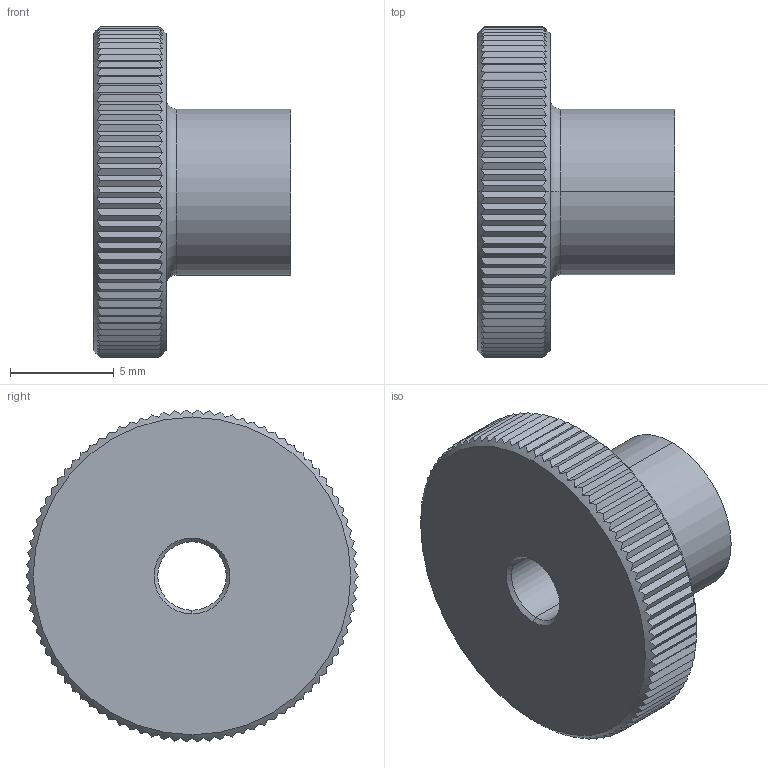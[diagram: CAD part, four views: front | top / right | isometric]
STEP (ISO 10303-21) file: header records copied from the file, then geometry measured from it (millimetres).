
FILE_DESCRIPTION (( 'STEP AP203' ), '1' );
FILE_NAME ('37100.W0004.step', '2015-11-25T13:24:07', ( 'User' ), ( '' ), 'SwSTEP 2.0', 'SolidWorks 2009', '' );
FILE_SCHEMA (( 'CONFIG_CONTROL_DESIGN' ));
Length unit declared in the file: millimetre
Products named in the file (1): 37100.W0004
Bounding box: 9.5 x 16 x 15.99 mm (x, y, z)
Volume: 906.1 mm3; surface area: 803.9 mm2
Topology: 1 solids, 1 shells, 197 faces, 572 edges, 378 vertices
Faces by surface type: plane 183, cone 8, cylinder 4, torus 2
Entity records: 6807 total; most frequent: CARTESIAN_POINT 2228, ORIENTED_EDGE 1144, DIRECTION 628, EDGE_CURVE 572, VERTEX_POINT 378, B_SPLINE_CURVE_WITH_KNOTS 360, AXIS2_PLACEMENT_3D 218, EDGE_LOOP 200
